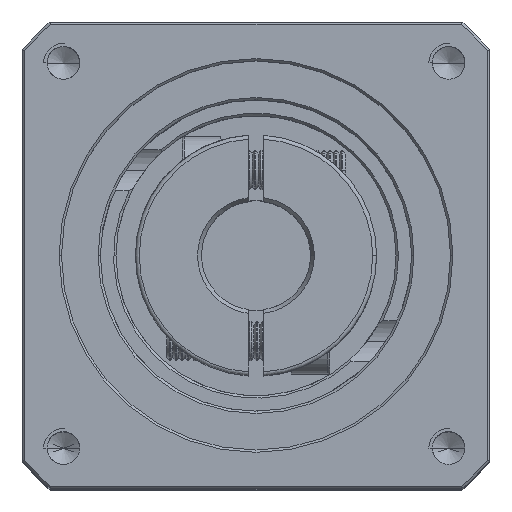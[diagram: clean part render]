
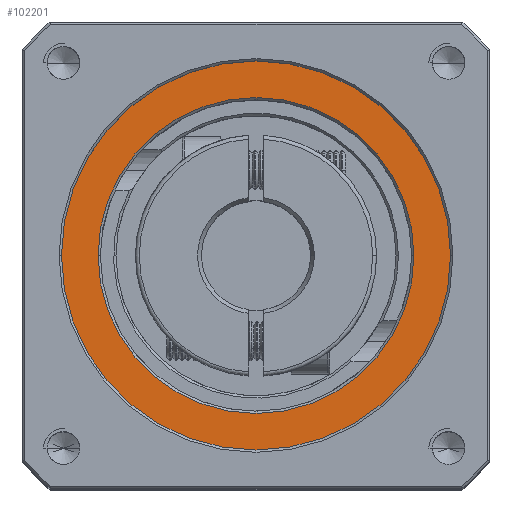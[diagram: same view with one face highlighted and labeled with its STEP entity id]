
A CAD part, top view. The second image highlights one B-rep face of the part: STEP entity #102201.
In plain terms, the highlighted planar face has unit normal (0, 0, 1).
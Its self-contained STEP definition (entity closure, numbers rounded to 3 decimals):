
#2195 = DIRECTION ( 'NONE',  ( 0., 0., -1. ) ) ;
#4578 = EDGE_CURVE ( 'NONE', #68048, #46113, #51978, .T. ) ;
#8079 = CARTESIAN_POINT ( 'NONE',  ( -79.979, 25.271, 13.438 ) ) ;
#12831 = DIRECTION ( 'NONE',  ( 0., 0., 1. ) ) ;
#12881 = EDGE_CURVE ( 'NONE', #93290, #88127, #29219, .T. ) ;
#15781 = ORIENTED_EDGE ( 'NONE', *, *, #28598, .T. ) ;
#16148 = DIRECTION ( 'NONE',  ( 1., 0., 0. ) ) ;
#18462 = DIRECTION ( 'NONE',  ( 0., 0., 1. ) ) ;
#19223 = CARTESIAN_POINT ( 'NONE',  ( -34.679, 25.271, 13.438 ) ) ;
#21316 = DIRECTION ( 'NONE',  ( 1., 0., 0. ) ) ;
#28598 = EDGE_CURVE ( 'NONE', #88127, #93290, #76609, .T. ) ;
#29219 = CIRCLE ( 'NONE', #44250, 20.3 ) ;
#30183 = FACE_BOUND ( 'NONE', #73549, .T. ) ;
#32408 = DIRECTION ( 'NONE',  ( 0., 0., 1. ) ) ;
#34008 = DIRECTION ( 'NONE',  ( 0., 0., -1. ) ) ;
#37930 = CARTESIAN_POINT ( 'NONE',  ( -59.679, 25.271, 13.438 ) ) ;
#38483 = EDGE_LOOP ( 'NONE', ( #90643, #60547 ) ) ;
#41167 = CARTESIAN_POINT ( 'NONE',  ( -39.379, 25.271, 13.438 ) ) ;
#42053 = FACE_OUTER_BOUND ( 'NONE', #38483, .T. ) ;
#44250 = AXIS2_PLACEMENT_3D ( 'NONE', #44719, #2195, #61278 ) ;
#44719 = CARTESIAN_POINT ( 'NONE',  ( -59.679, 25.271, 13.438 ) ) ;
#46113 = VERTEX_POINT ( 'NONE', #88875 ) ;
#50238 = CARTESIAN_POINT ( 'NONE',  ( -59.679, 25.271, 13.438 ) ) ;
#50441 = CIRCLE ( 'NONE', #82057, 25. ) ;
#51978 = CIRCLE ( 'NONE', #86308, 25. ) ;
#57492 = EDGE_CURVE ( 'NONE', #46113, #68048, #50441, .T. ) ;
#60547 = ORIENTED_EDGE ( 'NONE', *, *, #57492, .T. ) ;
#61278 = DIRECTION ( 'NONE',  ( 1., 0., 0. ) ) ;
#68048 = VERTEX_POINT ( 'NONE', #19223 ) ;
#73549 = EDGE_LOOP ( 'NONE', ( #15781, #91481 ) ) ;
#76337 = PLANE ( 'NONE',  #91950 ) ;
#76609 = CIRCLE ( 'NONE', #98211, 20.3 ) ;
#82057 = AXIS2_PLACEMENT_3D ( 'NONE', #108771, #32408, #16148 ) ;
#86308 = AXIS2_PLACEMENT_3D ( 'NONE', #37930, #12831, #21316 ) ;
#88127 = VERTEX_POINT ( 'NONE', #41167 ) ;
#88875 = CARTESIAN_POINT ( 'NONE',  ( -84.679, 25.271, 13.438 ) ) ;
#90643 = ORIENTED_EDGE ( 'NONE', *, *, #4578, .T. ) ;
#91481 = ORIENTED_EDGE ( 'NONE', *, *, #12881, .T. ) ;
#91950 = AXIS2_PLACEMENT_3D ( 'NONE', #50238, #18462, #103430 ) ;
#92120 = CARTESIAN_POINT ( 'NONE',  ( -59.679, 25.271, 13.438 ) ) ;
#93290 = VERTEX_POINT ( 'NONE', #8079 ) ;
#98211 = AXIS2_PLACEMENT_3D ( 'NONE', #92120, #34008, #108924 ) ;
#102201 = ADVANCED_FACE ( 'NONE', ( #30183, #42053 ), #76337, .T. ) ;
#103430 = DIRECTION ( 'NONE',  ( 1., 0., 0. ) ) ;
#108771 = CARTESIAN_POINT ( 'NONE',  ( -59.679, 25.271, 13.438 ) ) ;
#108924 = DIRECTION ( 'NONE',  ( 1., 0., 0. ) ) ;
